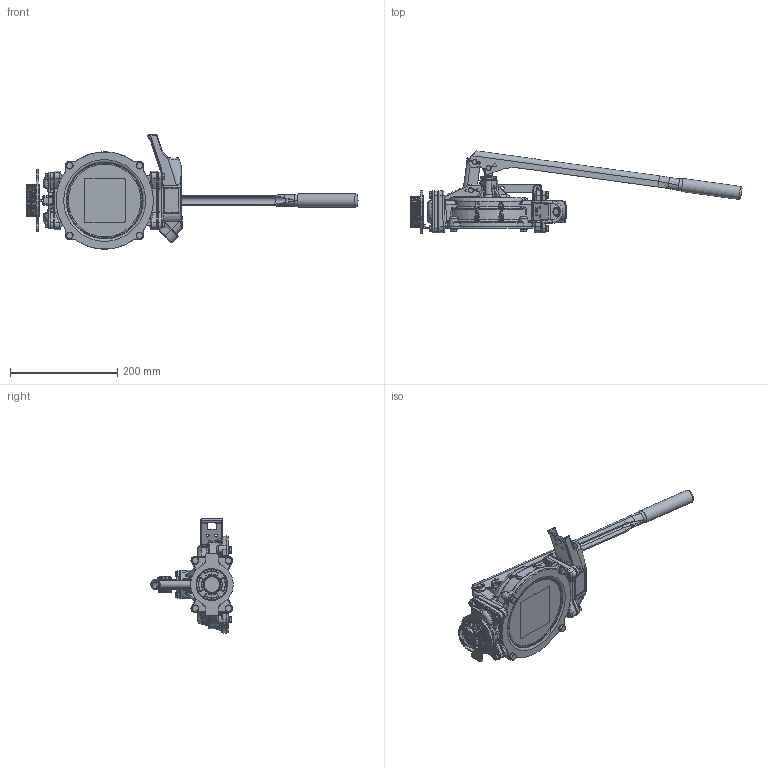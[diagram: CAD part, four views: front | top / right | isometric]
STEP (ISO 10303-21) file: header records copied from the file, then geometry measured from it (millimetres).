
FILE_DESCRIPTION(/* description */ (''),/* implementation_level */ '2;1');
FILE_NAME(/* name */ 'C:\Vault Projects\GPI Eng\New Projects\DHarris\Website model updates\STEP\DP-20-UL.stp',/* time_stamp */ '2022-07-18T10:28:47-05:00',/* author */ ('gdanhar'),/* organization */ (''),/* preprocessor_version */ 'ST-DEVELOPER v18.1',/* originating_system */ 'Autodesk Inventor 2022',/* authorisation */ '');
FILE_SCHEMA (('AUTOMOTIVE_DESIGN { 1 0 10303 214 3 1 1 }'));
Products named in the file (1): DP-20-UL_DISPLAY
Bounding box: 618.27 x 153.11 x 212.74 mm (x, y, z)
Volume: 1980927.4 mm3; surface area: 243604.5 mm2
Topology: 4 solids, 4 shells, 2062 faces, 5077 edges, 3045 vertices
Faces by surface type: plane 748, bspline 485, cylinder 476, cone 216, torus 127, sphere 10
Full cylindrical faces by diameter (mm): 2.807 x2, 3.175 x1, 4.61 x1, 4.826 x2, 4.915 x1, 6.35 x12, 9.411 x12, 11.112 x12, 12.7 x3, 12.832 x12, 14.3 x1, 15.875 x1, 24.384 x1, 25.146 x1, 56.109 x8, 58.978 x7
Entity records: 88538 total; most frequent: CARTESIAN_POINT 40941, ORIENTED_EDGE 10056, DIRECTION 8582, EDGE_CURVE 5028, AXIS2_PLACEMENT_3D 3309, VERTEX_POINT 3041, EDGE_LOOP 2180, FACE_OUTER_BOUND 2062
